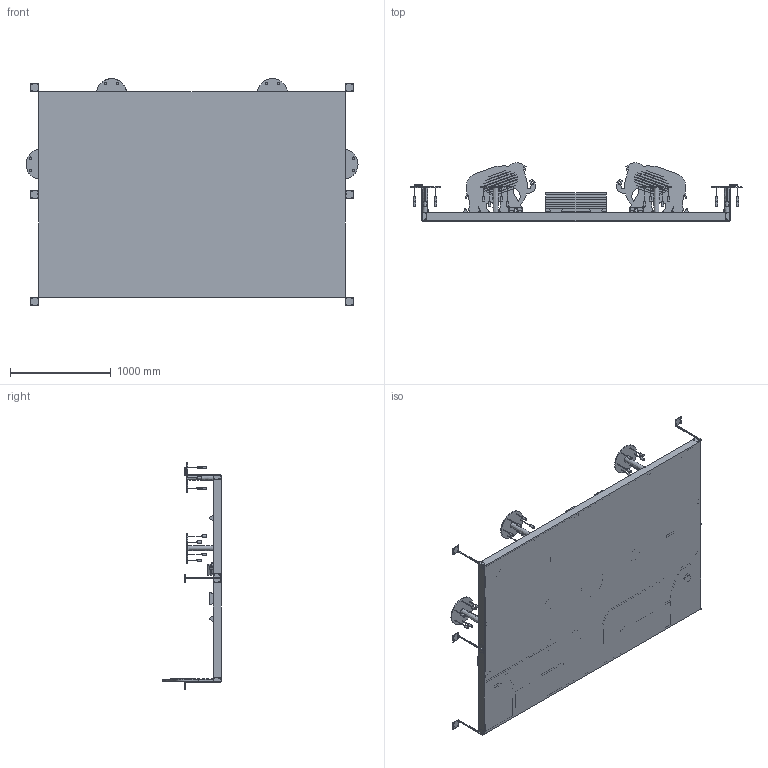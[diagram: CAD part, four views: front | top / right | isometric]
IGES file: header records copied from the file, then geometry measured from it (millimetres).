
Global section: file name: No Iges File Name specified; native system: Autodesk Inventor 2013; preprocessor: AutoDesk Inventor Iges Exporter R2013; author: Flopy; date: 20131001.110714; units: millimetre
Bounding box: 3299.84 x 579.56 x 2251.92 mm (x, y, z)
Volume: 121014511.3 mm3; surface area: 19057133 mm2
Topology: 142 solids, 142 shells, 1316 faces, 2851 edges, 1852 vertices
Faces by surface type: bspline 1316
